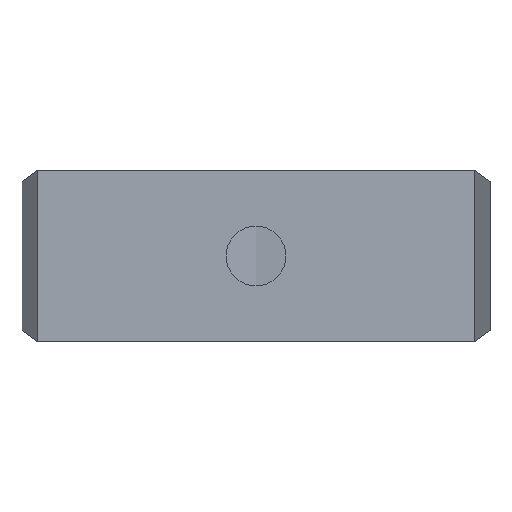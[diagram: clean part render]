
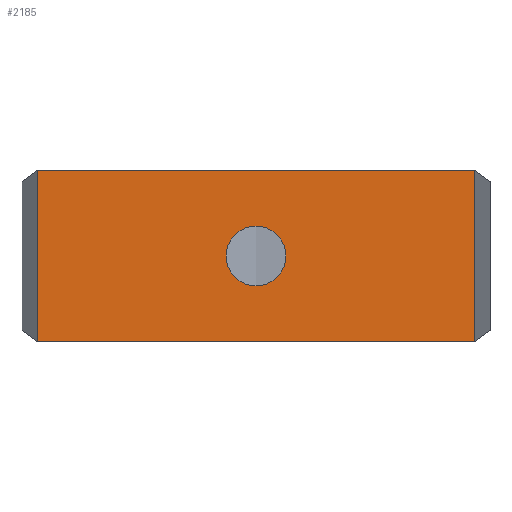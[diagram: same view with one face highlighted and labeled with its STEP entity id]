
A CAD part, front view. The second image highlights one B-rep face of the part: STEP entity #2185.
In plain terms, the highlighted planar face has unit normal (0, -1, 0).
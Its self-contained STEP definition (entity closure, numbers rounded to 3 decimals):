
#5 = DIRECTION ( 'NONE',  ( 1., 0., 0. ) ) ;
#224 = CARTESIAN_POINT ( 'NONE',  ( 0., 0., 11.5 ) ) ;
#265 = DIRECTION ( 'NONE',  ( 0., 0., -1. ) ) ;
#285 = PLANE ( 'NONE',  #338 ) ;
#338 = AXIS2_PLACEMENT_3D ( 'NONE', #224, #2962, #5 ) ;
#376 = ORIENTED_EDGE ( 'NONE', *, *, #3347, .T. ) ;
#481 = ORIENTED_EDGE ( 'NONE', *, *, #2277, .T. ) ;
#489 = EDGE_CURVE ( 'NONE', #2903, #867, #1593, .T. ) ;
#627 = ORIENTED_EDGE ( 'NONE', *, *, #2192, .T. ) ;
#672 = CARTESIAN_POINT ( 'NONE',  ( 0., 0., -11.5 ) ) ;
#759 = VECTOR ( 'NONE', #2478, 1000. ) ;
#763 = VERTEX_POINT ( 'NONE', #1447 ) ;
#824 = CARTESIAN_POINT ( 'NONE',  ( 0., 0., 0. ) ) ;
#867 = VERTEX_POINT ( 'NONE', #1570 ) ;
#897 = LINE ( 'NONE', #2117, #3313 ) ;
#906 = FACE_OUTER_BOUND ( 'NONE', #1594, .T. ) ;
#939 = VERTEX_POINT ( 'NONE', #2766 ) ;
#952 = VERTEX_POINT ( 'NONE', #1665 ) ;
#964 = AXIS2_PLACEMENT_3D ( 'NONE', #2444, #1922, #3657 ) ;
#1161 = CARTESIAN_POINT ( 'NONE',  ( 0., 0., 11.5 ) ) ;
#1226 = DIRECTION ( 'NONE',  ( 0., 0., 1. ) ) ;
#1276 = EDGE_CURVE ( 'NONE', #952, #2077, #1540, .T. ) ;
#1344 = CARTESIAN_POINT ( 'NONE',  ( 0., 0., -4. ) ) ;
#1447 = CARTESIAN_POINT ( 'NONE',  ( 29.3, 0., 11.5 ) ) ;
#1499 = EDGE_CURVE ( 'NONE', #763, #2903, #897, .T. ) ;
#1540 = CIRCLE ( 'NONE', #964, 4. ) ;
#1570 = CARTESIAN_POINT ( 'NONE',  ( -29.3, 0., -11.5 ) ) ;
#1593 = LINE ( 'NONE', #672, #759 ) ;
#1594 = EDGE_LOOP ( 'NONE', ( #2619, #3652, #481, #376 ) ) ;
#1665 = CARTESIAN_POINT ( 'NONE',  ( 0., 0., 4. ) ) ;
#1799 = VECTOR ( 'NONE', #265, 1000. ) ;
#1922 = DIRECTION ( 'NONE',  ( 0., 1., 0. ) ) ;
#1996 = CARTESIAN_POINT ( 'NONE',  ( 29.3, 0., -11.5 ) ) ;
#2044 = FACE_BOUND ( 'NONE', #3770, .T. ) ;
#2077 = VERTEX_POINT ( 'NONE', #1344 ) ;
#2117 = CARTESIAN_POINT ( 'NONE',  ( 29.3, 0., 11.5 ) ) ;
#2185 = ADVANCED_FACE ( 'NONE', ( #2044, #906 ), #285, .T. ) ;
#2192 = EDGE_CURVE ( 'NONE', #2077, #952, #3064, .T. ) ;
#2277 = EDGE_CURVE ( 'NONE', #763, #939, #3311, .T. ) ;
#2444 = CARTESIAN_POINT ( 'NONE',  ( 0., 0., 0. ) ) ;
#2478 = DIRECTION ( 'NONE',  ( -1., 0., 0. ) ) ;
#2619 = ORIENTED_EDGE ( 'NONE', *, *, #489, .F. ) ;
#2766 = CARTESIAN_POINT ( 'NONE',  ( -29.3, 0., 11.5 ) ) ;
#2903 = VERTEX_POINT ( 'NONE', #1996 ) ;
#2962 = DIRECTION ( 'NONE',  ( 0., -1., 0. ) ) ;
#2974 = ORIENTED_EDGE ( 'NONE', *, *, #1276, .T. ) ;
#2984 = CARTESIAN_POINT ( 'NONE',  ( -29.3, 0., 11.5 ) ) ;
#3064 = CIRCLE ( 'NONE', #3847, 4. ) ;
#3311 = LINE ( 'NONE', #1161, #3580 ) ;
#3313 = VECTOR ( 'NONE', #3323, 1000. ) ;
#3323 = DIRECTION ( 'NONE',  ( 0., 0., -1. ) ) ;
#3336 = DIRECTION ( 'NONE',  ( -1., 0., 0. ) ) ;
#3347 = EDGE_CURVE ( 'NONE', #939, #867, #3598, .T. ) ;
#3580 = VECTOR ( 'NONE', #3336, 1000. ) ;
#3596 = DIRECTION ( 'NONE',  ( 0., 1., 0. ) ) ;
#3598 = LINE ( 'NONE', #2984, #1799 ) ;
#3652 = ORIENTED_EDGE ( 'NONE', *, *, #1499, .F. ) ;
#3657 = DIRECTION ( 'NONE',  ( 0., 0., 1. ) ) ;
#3770 = EDGE_LOOP ( 'NONE', ( #2974, #627 ) ) ;
#3847 = AXIS2_PLACEMENT_3D ( 'NONE', #824, #3596, #1226 ) ;
